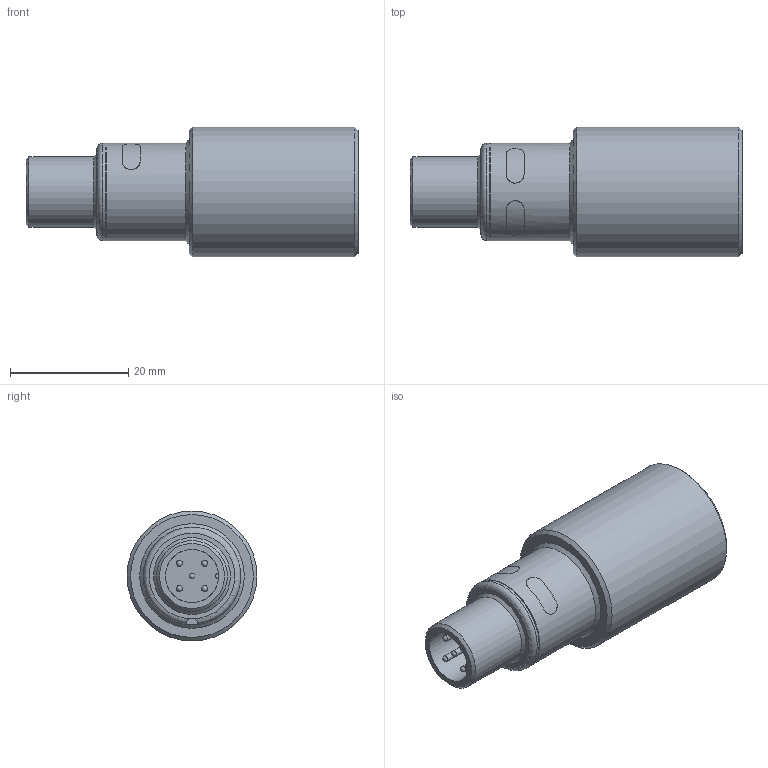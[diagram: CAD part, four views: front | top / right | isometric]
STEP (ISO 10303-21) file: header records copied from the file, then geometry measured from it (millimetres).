
FILE_DESCRIPTION((''),'2;1');
FILE_NAME('J:\Projekte\Kunststoff-Blechteile\Zeichnungen\Bibliothek Inventor\3D Solids\pico+\STP\pico+25\pico+25_TF_X.stp','2012-02-27T10:50:54',('Oliver Liedtke'),(''),'Autodesk Inventor 2009','Autodesk Inventor 2009','');
FILE_SCHEMA(('AUTOMOTIVE_DESIGN { 1 0 10303 214 1 1 1 1 }'));
Length unit declared in the file: millimetre
Products named in the file (1): pico+25_TF_X
Bounding box: 56.2 x 22 x 22 mm (x, y, z)
Volume: 14588.7 mm3; surface area: 4364.1 mm2
Topology: 1 solids, 1 shells, 46 faces, 102 edges, 61 vertices
Faces by surface type: cylinder 16, plane 14, sphere 5, cone 5, bspline 4, torus 2
Full cylindrical faces by diameter (mm): 1 x5, 9 x1, 12 x1, 13 x1, 16.3 x1, 16.5 x2, 22 x1
Entity records: 3275 total; most frequent: CARTESIAN_POINT 2291, DIRECTION 188, ORIENTED_EDGE 140, AXIS2_PLACEMENT_3D 89, EDGE_LOOP 78, EDGE_CURVE 70, VERTEX_POINT 58, FACE_OUTER_BOUND 46
